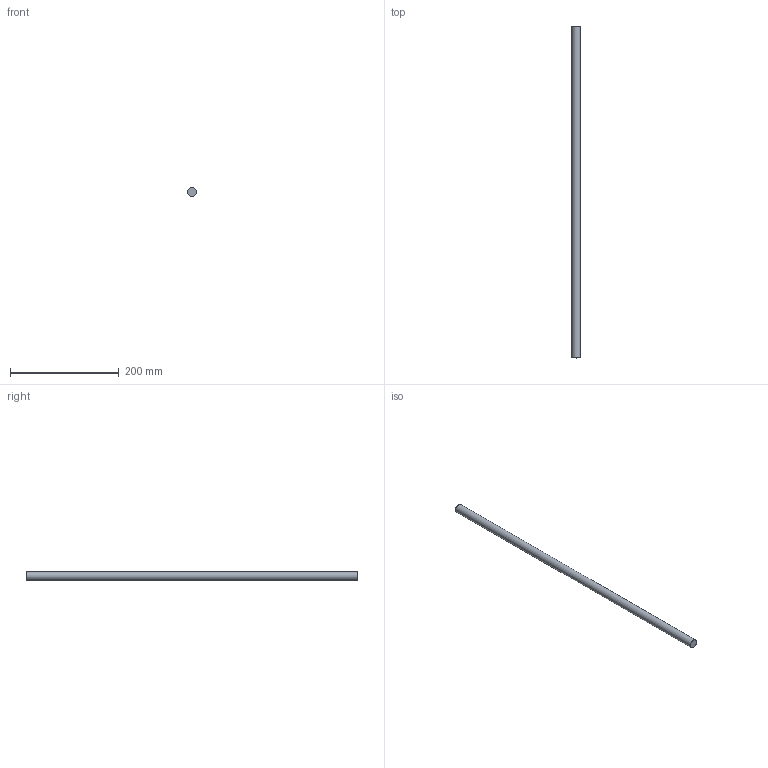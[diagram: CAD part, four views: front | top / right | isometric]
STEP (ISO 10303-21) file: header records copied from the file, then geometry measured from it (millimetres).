
FILE_DESCRIPTION (( 'STEP AP214' ), '1' );
FILE_NAME ('Rebar - 24in.STEP', '2025-01-09T19:43:24', ( '' ), ( '' ), 'SwSTEP 2.0', 'SolidWorks 2024', '' );
FILE_SCHEMA (( 'AUTOMOTIVE_DESIGN' ));
Length unit declared in the file: inch
Products named in the file (1): Rebar - 24in
Bounding box: 15.88 x 609.6 x 15.88 mm (x, y, z)
Volume: 120659.7 mm3; surface area: 30798.3 mm2
Topology: 1 solids, 1 shells, 3 faces, 3 edges, 2 vertices
Faces by surface type: plane 2, cylinder 1
Full cylindrical faces by diameter (mm): 15.875 x1
Entity records: 81 total; most frequent: DIRECTION 12, CARTESIAN_POINT 8, AXIS2_PLACEMENT_3D 6, ORIENTED_EDGE 4, FACE_OUTER_BOUND 4, EDGE_LOOP 4, ADVANCED_FACE 3, VERTEX_POINT 2
